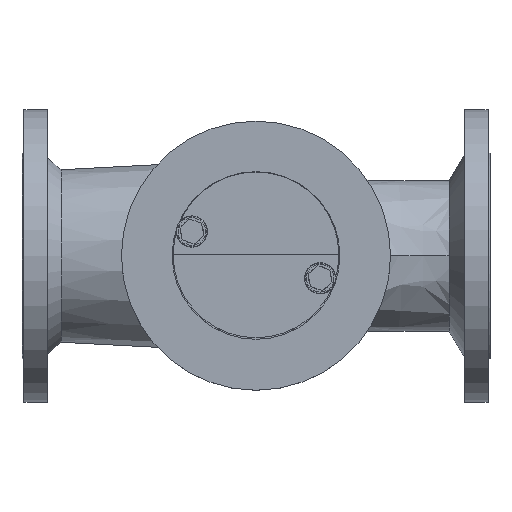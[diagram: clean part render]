
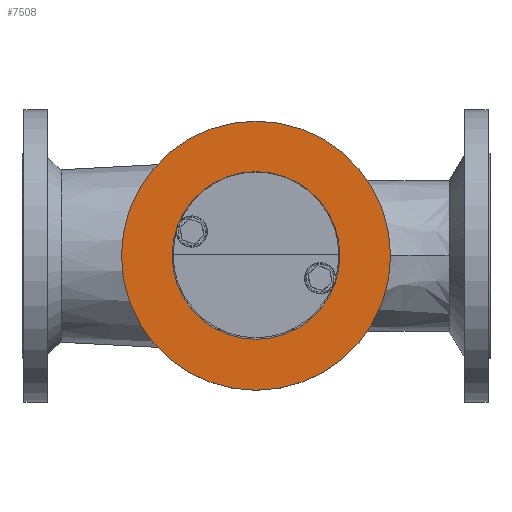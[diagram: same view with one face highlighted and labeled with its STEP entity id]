
A CAD part, top view. The second image highlights one B-rep face of the part: STEP entity #7508.
In plain terms, the highlighted planar face has unit normal (0, 0, 1).
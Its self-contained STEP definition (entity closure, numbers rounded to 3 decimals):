
#1292=FACE_BOUND('',#1917,.T.);
#1362=FACE_OUTER_BOUND('',#1916,.T.);
#1916=EDGE_LOOP('',(#4939,#4940));
#1917=EDGE_LOOP('',(#4941,#4942));
#2479=CIRCLE('',#8169,138.);
#2480=CIRCLE('',#8170,138.);
#2481=CIRCLE('',#8171,22.5);
#2482=CIRCLE('',#8172,22.5);
#3115=VERTEX_POINT('',#11780);
#3116=VERTEX_POINT('',#11781);
#3117=VERTEX_POINT('',#11784);
#3118=VERTEX_POINT('',#11785);
#3738=EDGE_CURVE('',#3115,#3116,#2479,.T.);
#3739=EDGE_CURVE('',#3116,#3115,#2480,.T.);
#3740=EDGE_CURVE('',#3117,#3118,#2481,.T.);
#3741=EDGE_CURVE('',#3118,#3117,#2482,.T.);
#4939=ORIENTED_EDGE('',*,*,#3738,.T.);
#4940=ORIENTED_EDGE('',*,*,#3739,.T.);
#4941=ORIENTED_EDGE('',*,*,#3740,.T.);
#4942=ORIENTED_EDGE('',*,*,#3741,.T.);
#6757=PLANE('',#8168);
#7508=ADVANCED_FACE('',(#1362,#1292),#6757,.T.);
#8168=AXIS2_PLACEMENT_3D('',#11779,#9391,#9392);
#8169=AXIS2_PLACEMENT_3D('',#11782,#9393,#9394);
#8170=AXIS2_PLACEMENT_3D('',#11783,#9395,#9396);
#8171=AXIS2_PLACEMENT_3D('',#11786,#9397,#9398);
#8172=AXIS2_PLACEMENT_3D('',#11787,#9399,#9400);
#9391=DIRECTION('center_axis',(0.,0.,1.));
#9392=DIRECTION('ref_axis',(0.,1.,0.));
#9393=DIRECTION('center_axis',(0.,0.,1.));
#9394=DIRECTION('ref_axis',(1.,0.,0.));
#9395=DIRECTION('center_axis',(0.,0.,1.));
#9396=DIRECTION('ref_axis',(1.,0.,0.));
#9397=DIRECTION('center_axis',(0.,0.,-1.));
#9398=DIRECTION('ref_axis',(1.,0.,0.));
#9399=DIRECTION('center_axis',(0.,0.,-1.));
#9400=DIRECTION('ref_axis',(1.,0.,0.));
#11779=CARTESIAN_POINT('Origin',(138.,0.,170.5));
#11780=CARTESIAN_POINT('',(-138.,0.,170.5));
#11781=CARTESIAN_POINT('',(138.,0.,170.5));
#11782=CARTESIAN_POINT('Origin',(0.,0.,170.5));
#11783=CARTESIAN_POINT('Origin',(0.,0.,170.5));
#11784=CARTESIAN_POINT('',(-22.5,0.,170.5));
#11785=CARTESIAN_POINT('',(22.5,0.,170.5));
#11786=CARTESIAN_POINT('Origin',(0.,0.,170.5));
#11787=CARTESIAN_POINT('Origin',(0.,0.,170.5));
